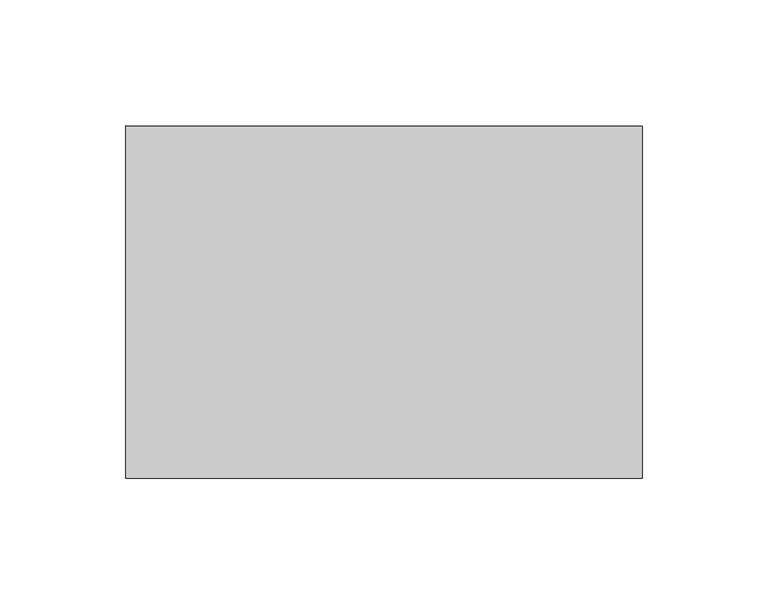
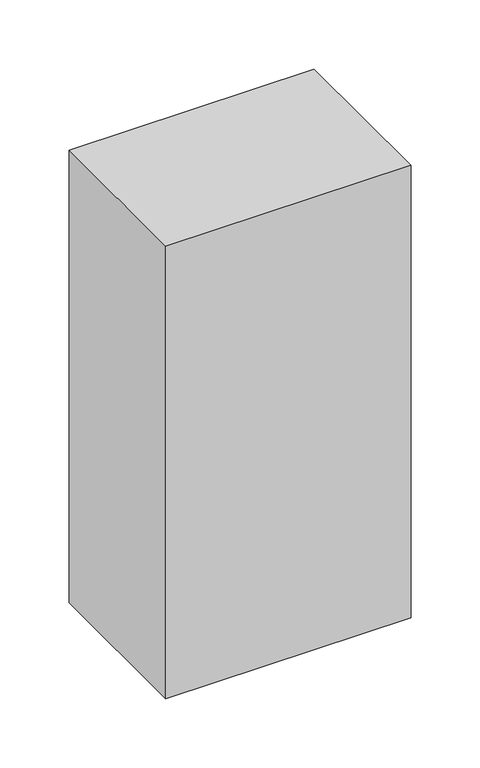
"""IFC4 building model written with IfcOpenShell, lengths in millimetres: proxy geometry."""

from ifc_helpers import new_model, si_unit, frame, origin, place, context, project, spatial, polyline, outline, extrude, source, transform, mapped, element, save


def structural_framing_8a7f6f7c(model_context):
    return source(origin(), model_context, "Body", "SweptSolid", [
        extrude(outline(polyline([(-102.5375, -69.9633839), (-102.4875, 70.0366071), (102.5375, 69.9633839), (102.4875, -70.0366071), (-102.5375, -69.9633839)])), frame((0.0, 0.0, -400.0), z_axis=(0.0, 0.0, 1.0), x_axis=(1.0, 0.0, 0.0)), (0.0, 0.0, 1.0), 400.0),
    ])


if __name__ == "__main__":
    model = new_model("IFC4")
    model_context = context("Model", 3, world=origin())
    ifc_project = project(units=[si_unit("LENGTHUNIT", "METRE", prefix="MILLI")], contexts=[model_context])
    site = spatial("IfcSite", under=ifc_project)
    building = spatial("IfcBuilding", under=site)
    placement = place(None, origin())
    structural_framing_shape = structural_framing_8a7f6f7c(model_context)
    element("IfcBuildingElementProxy", 1, Name="Structural Framing", at=placement, inside=building, context=model_context, shape_type="MappedRepresentation", body=[
        mapped(structural_framing_shape, transform((0.0, 0.0, 0.0), x_axis=(1.0, 0.0, 0.0), y_axis=(0.0, 1.0, 0.0), z_axis=(0.0, 0.0, 1.0))),
    ])
    save(model, "model.ifc")
